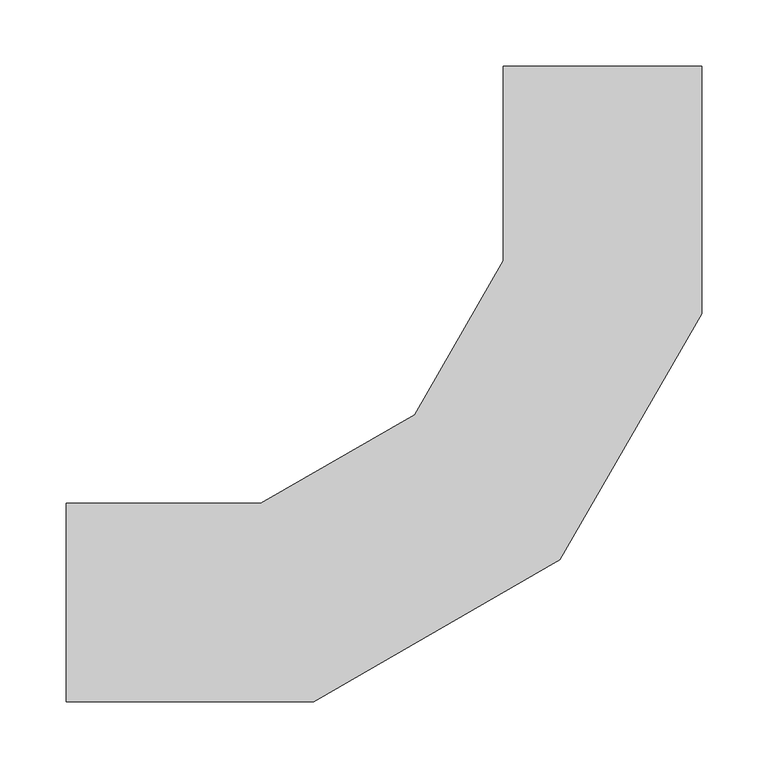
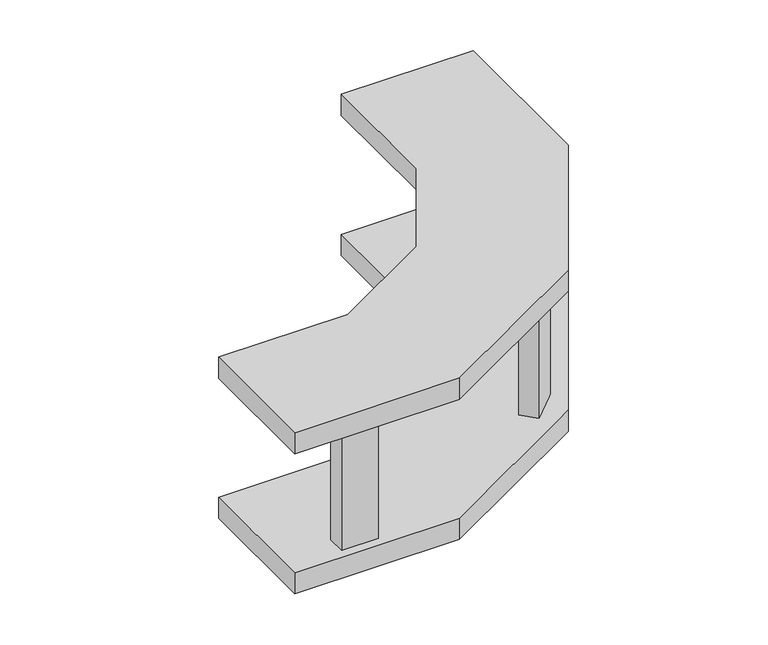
"""IFC4 building model written with IfcOpenShell, lengths in millimetres: cable carrier fitting geometry, Legrand_CableLadder_Swifts_Emerald_InsideRiser-13 : Hot Dip Galvanised (after manufacture)."""

from ifc_helpers import new_model, si_unit, frame, origin, place, context, project, spatial, polyline, outline, extrude, source, transform, mapped, element, save


def cable_carrier_fitting_e11d2789(model_context):
    return source(origin(), model_context, "Body", "SweptSolid", [
        extrude(outline(polyline([(-79.0732868, 49.3748019), (-49.3748019, 79.0732868), (-34.5255595, 64.2240444), (-64.2240444, 34.5255595), (-79.0732868, 49.3748019)])), frame((0.0, 0.0, -71.5), z_axis=(0.0, 0.0, 1.0), x_axis=(1.0, 0.0, 0.0)), (0.0, 0.0, 1.0), 143.0),
        extrude(outline(polyline([(-346.5, -44.0), (-304.5, -44.0), (-304.5, -65.0), (-346.5, -65.0), (-346.5, -44.0)])), frame((0.0, 0.0, -71.5), z_axis=(0.0, 0.0, 1.0), x_axis=(1.0, 0.0, 0.0)), (0.0, 0.0, 1.0), 143.0),
        extrude(outline(polyline([(44.0, 304.5), (44.0, 346.5), (65.0, 346.5), (65.0, 304.5), (44.0, 304.5)])), frame((0.0, 0.0, -71.5), z_axis=(0.0, 0.0, 1.0), x_axis=(1.0, 0.0, 0.0)), (0.0, 0.0, 1.0), 143.0),
        extrude(outline(polyline([(-218.1863484, -75.0), (-405.5, -75.0), (-405.5, 75.0), (-258.3787273, 75.0), (-142.1212727, 142.1212727), (-75.0, 258.3787273), (-75.0, 405.5), (75.0, 405.5), (75.0, 218.1863484), (-32.3136516, 32.3136516), (-218.1863484, -75.0)])), frame((0.0, 0.0, -97.0), z_axis=(0.0, 0.0, 1.0), x_axis=(1.0, 0.0, 0.0)), (0.0, 0.0, 1.0), 25.5),
        extrude(outline(polyline([(-405.5, -75.0), (-405.5, 75.0), (-258.3787273, 75.0), (-142.1212727, 142.1212727), (-75.0, 258.3787273), (-75.0, 405.5), (75.0, 405.5), (75.0, 218.1863484), (-32.3136516, 32.3136516), (-218.1863484, -75.0), (-405.5, -75.0)])), frame((0.0, 0.0, 71.5), z_axis=(0.0, 0.0, 1.0), x_axis=(1.0, 0.0, 0.0)), (0.0, 0.0, 1.0), 25.5),
    ])


if __name__ == "__main__":
    model = new_model("IFC4")
    model_context = context("Model", 3, world=origin())
    ifc_project = project(units=[si_unit("LENGTHUNIT", "METRE", prefix="MILLI")], contexts=[model_context])
    site = spatial("IfcSite", under=ifc_project)
    building = spatial("IfcBuilding", under=site)
    placement = place(None, origin())
    cable_carrier_fitting_shape = cable_carrier_fitting_e11d2789(model_context)
    element("IfcCableCarrierFitting", 1, ObjectType="Legrand_CableLadder_Swifts_Emerald_InsideRiser-13 : Hot Dip Galvanised (after manufacture)", at=placement, inside=building, context=model_context, shape_type="MappedRepresentation", body=[
        mapped(cable_carrier_fitting_shape, transform((0.0, 0.0, 0.0), x_axis=(1.0, 0.0, 0.0), y_axis=(0.0, 1.0, 0.0), z_axis=(0.0, 0.0, 1.0))),
    ])
    save(model, "model.ifc")
